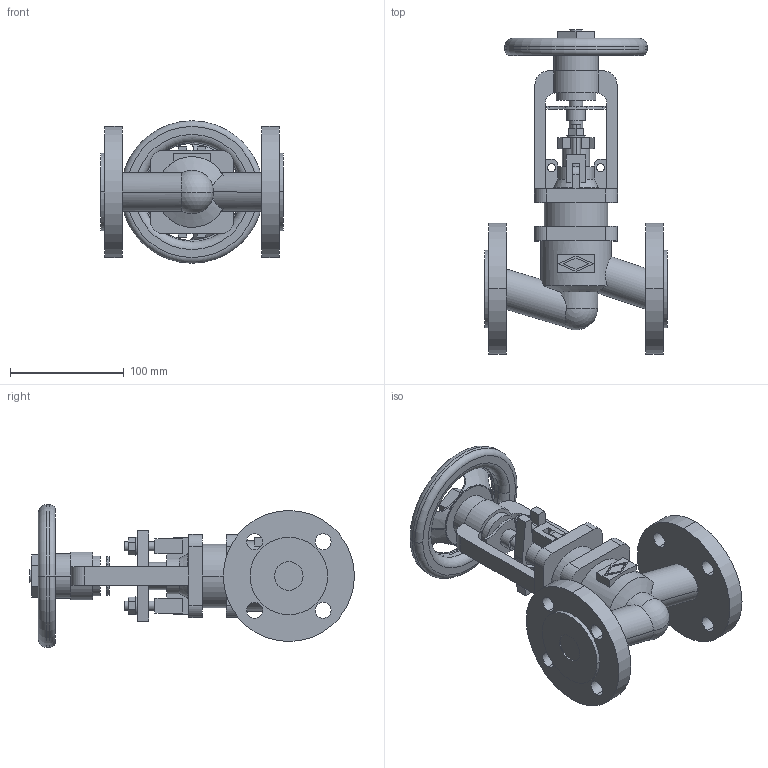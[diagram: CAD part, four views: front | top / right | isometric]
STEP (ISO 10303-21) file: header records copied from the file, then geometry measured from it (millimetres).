
FILE_DESCRIPTION(('OneSpaceDesigner STEP Export'),'2;1');
FILE_NAME('c000003726.stp','2009-06-15T12:47:13',(''),(''),'OneSpace Designer STEP processor for AP214 (Solid Model)','OneSpace Modeling 15.50B 03-Nov-2007 (C) CoCreate Software GmbH','');
FILE_SCHEMA(('AUTOMOTIVE_DESIGN { 1 0 10303 214 1 1 1 1 }'));
Length unit declared in the file: millimetre
Products named in the file (1): 1
Bounding box: 160 x 285 x 125 mm (x, y, z)
Volume: 995982.9 mm3; surface area: 166762.1 mm2
Topology: 1 solids, 1 shells, 283 faces, 753 edges, 494 vertices
Faces by surface type: plane 140, cylinder 115, torus 14, cone 12, sphere 2
Entity records: 11123 total; most frequent: CARTESIAN_POINT 2117, ORIENTED_EDGE 1502, DIRECTION 1263, EDGE_CURVE 751, VERTEX_POINT 494, AXIS2_PLACEMENT_3D 423, VECTOR 417, LINE 417
